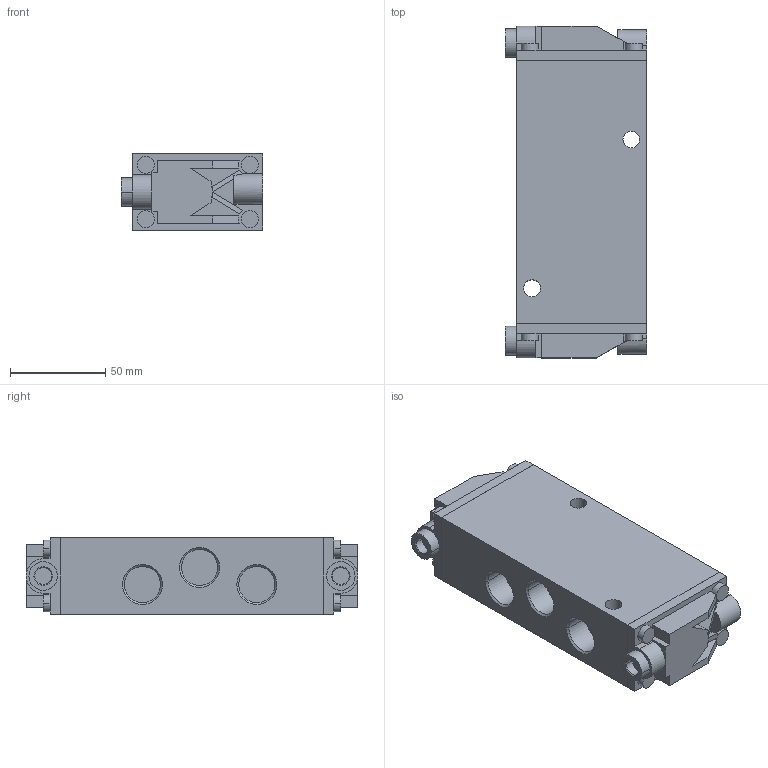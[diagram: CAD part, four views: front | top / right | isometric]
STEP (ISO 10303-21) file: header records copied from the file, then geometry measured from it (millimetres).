
FILE_DESCRIPTION((''),'2;1');
FILE_NAME('5725685202','2015-03-23T',('mla1hc'),(''),'PRO/ENGINEER BY PARAMETRIC TECHNOLOGY CORPORATION, 2011490','PRO/ENGINEER BY PARAMETRIC TECHNOLOGY CORPORATION, 2011490','');
FILE_SCHEMA(('AUTOMOTIVE_DESIGN_CC2 { 1 2 10303 214 -1 1 5 2 }'));
Length unit declared in the file: millimetre
Products named in the file (1): 5725685202
Bounding box: 74 x 174 x 40 mm (x, y, z)
Volume: 415893.3 mm3; surface area: 53825.1 mm2
Topology: 1 solids, 3 shells, 177 faces, 426 edges, 276 vertices
Faces by surface type: plane 97, cylinder 58, cone 22
Entity records: 5172 total; most frequent: CARTESIAN_POINT 922, DIRECTION 900, ORIENTED_EDGE 852, EDGE_CURVE 426, AXIS2_PLACEMENT_3D 309, VECTOR 282, LINE 282, VERTEX_POINT 276
